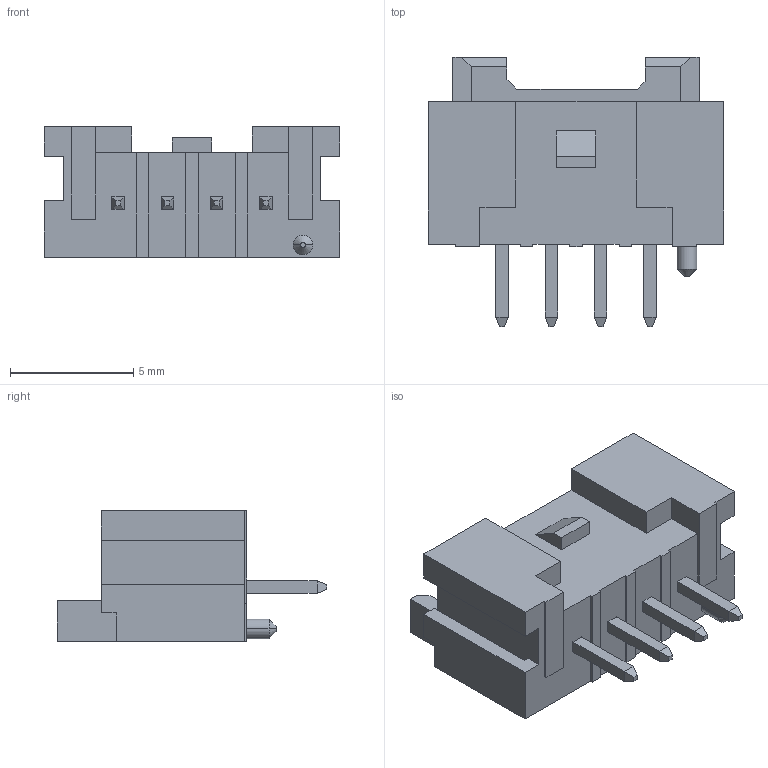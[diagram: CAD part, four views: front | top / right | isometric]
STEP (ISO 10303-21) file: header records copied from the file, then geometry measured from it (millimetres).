
FILE_DESCRIPTION((''),'2;1');
FILE_NAME('S-50318-004XX-XXX','2022-07-02T',('d35127'),(''),'CREO PARAMETRIC BY PTC INC, 2014500','CREO PARAMETRIC BY PTC INC, 2014500','');
FILE_SCHEMA(('AUTOMOTIVE_DESIGN { 1 0 10303 214 1 1 1 1 }'));
Length unit declared in the file: millimetre
Products named in the file (1): S-50318-004XX-XXX
Bounding box: 12 x 10.95 x 5.3 mm (x, y, z)
Volume: 220.3 mm3; surface area: 619 mm2
Topology: 1 solids, 1 shells, 211 faces, 613 edges, 398 vertices
Faces by surface type: plane 207, cylinder 2, cone 2
Entity records: 6912 total; most frequent: CARTESIAN_POINT 1219, ORIENTED_EDGE 1206, DIRECTION 1061, EDGE_CURVE 603, VECTOR 597, LINE 597, VERTEX_POINT 388, AXIS2_PLACEMENT_3D 232
